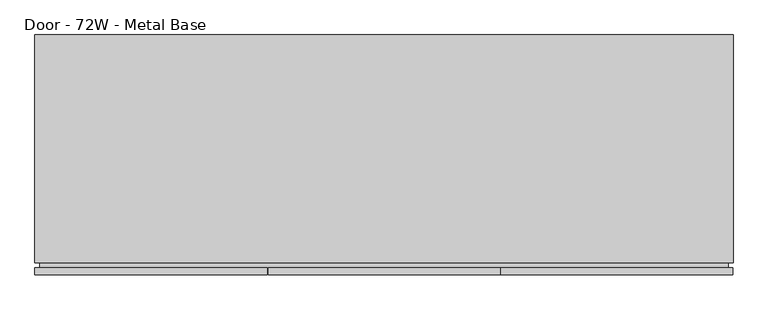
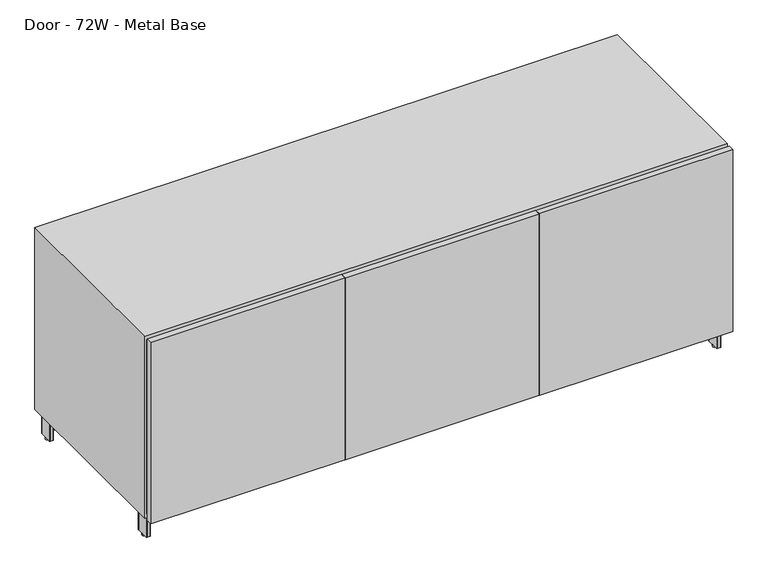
"""IFC4 building model written with IfcOpenShell, lengths in millimetres: furniture geometry, Steelcase Coalesse - Exponents - Storage - Credenza - 27H : Door - 72W - Metal Base."""

from ifc_helpers import new_model, si_unit, point, frame, frame_2d, origin, origin_with_axes, place, context, project, spatial, polyline, circle_curve, trimmed, segment, composite_curve, outline, extrude, faceted_brep, source, transform, mapped, element, save


def door_72w_metal_base_c97f43d6(model_context):
    return source(origin(), model_context, "Body", "SolidModel", [
        faceted_brep([(6.35, 31.75, 673.1), (6.35, 31.75, 95.25), (6.35, 622.3, 95.25), (6.35, 622.3, 673.1), (1822.45, 622.3, 95.25), (1822.45, 622.3, 673.1), (1822.45, 31.75, 95.25), (1822.45, 31.75, 673.1), (0.0, 31.75, 82.55), (1828.8, 31.75, 82.55), (1828.8, 31.75, 685.8), (0.0, 31.75, 685.8), (1828.8, 628.65, 82.55), (1828.8, 628.65, 685.8), (0.0, 628.65, 82.55), (0.0, 628.65, 685.8)], [[[0, 1, 2, 3]], [[3, 2, 4, 5]], [[5, 4, 6, 7]], [[8, 9, 10, 11], [7, 6, 1, 0]], [[10, 9, 12, 13]], [[13, 12, 14, 15]], [[15, 14, 8, 11]], [[7, 0, 3, 5]], [[10, 13, 15, 11]], [[1, 6, 4, 2]], [[12, 9, 8, 14]]]),
        extrude(outline(composite_curve([segment(polyline([(1805.1506426, 615.95), (1814.322, 615.95)]), True, "CONTINUOUS"), segment(trimmed(circle_curve(frame_2d((1814.322, 614.172)), 1.778), [point((1814.322, 615.95))], [point((1816.1, 614.172))], False, "CARTESIAN"), True, "CONTINUOUS"), segment(polyline([(1816.1, 614.172), (1816.1, 572.9986)]), True, "CONTINUOUS"), segment(trimmed(circle_curve(frame_2d((1814.322, 572.9986)), 1.778), [point((1816.1, 572.9986))], [point((1814.322, 571.2206))], False, "CARTESIAN"), True, "CONTINUOUS"), segment(polyline([(1814.322, 571.2206), (1805.1948916, 571.2206)]), True, "CONTINUOUS"), segment(trimmed(circle_curve(frame_2d((1805.1948916, 573.0154916)), 1.7948916), [point((1805.1948916, 571.2206))], [point((1803.4, 573.0154916))], False, "CARTESIAN"), True, "CONTINUOUS"), segment(polyline([(1803.4, 573.0154916), (1803.4, 614.1993574)]), True, "CONTINUOUS"), segment(trimmed(circle_curve(frame_2d((1805.1506426, 614.1993574)), 1.7506426), [point((1803.4, 614.1993574))], [point((1805.1506426, 615.95))], False, "CARTESIAN"), True, "CONTINUOUS")], self_intersect=False)), frame((0.0, 0.0, 6.35), z_axis=(0.0, 0.0, 1.0), x_axis=(1.0, 0.0, 0.0)), (0.0, 0.0, 1.0), 73.4568),
        extrude(outline(composite_curve([segment(polyline([(1805.1506426, 88.9), (1814.322, 88.9)]), True, "CONTINUOUS"), segment(trimmed(circle_curve(frame_2d((1814.322, 87.122)), 1.778), [point((1814.322, 88.9))], [point((1816.1, 87.122))], False, "CARTESIAN"), True, "CONTINUOUS"), segment(polyline([(1816.1, 87.122), (1816.1, 45.9486)]), True, "CONTINUOUS"), segment(trimmed(circle_curve(frame_2d((1814.322, 45.9486)), 1.778), [point((1816.1, 45.9486))], [point((1814.322, 44.1706))], False, "CARTESIAN"), True, "CONTINUOUS"), segment(polyline([(1814.322, 44.1706), (1805.1948916, 44.1706)]), True, "CONTINUOUS"), segment(trimmed(circle_curve(frame_2d((1805.1948916, 45.9654916)), 1.7948916), [point((1805.1948916, 44.1706))], [point((1803.4, 45.9654916))], False, "CARTESIAN"), True, "CONTINUOUS"), segment(polyline([(1803.4, 45.9654916), (1803.4, 87.1493574)]), True, "CONTINUOUS"), segment(trimmed(circle_curve(frame_2d((1805.1506426, 87.1493574)), 1.7506426), [point((1803.4, 87.1493574))], [point((1805.1506426, 88.9))], False, "CARTESIAN"), True, "CONTINUOUS")], self_intersect=False)), frame((0.0, 0.0, 6.35), z_axis=(0.0, 0.0, 1.0), x_axis=(1.0, 0.0, 0.0)), (0.0, 0.0, 1.0), 73.4568),
        extrude(outline(composite_curve([segment(trimmed(circle_curve(frame_2d((1809.75, 593.5667033)), 6.35), [point((1809.75, 599.9167033))], [point((1809.75, 587.2167033))], False, "CARTESIAN"), True, "CONTINUOUS"), segment(trimmed(circle_curve(frame_2d((1809.75, 593.5667033)), 6.35), [point((1809.75, 587.2167033))], [point((1809.75, 599.9167033))], False, "CARTESIAN"), True, "CONTINUOUS")], self_intersect=False)), origin_with_axes(), (0.0, 0.0, 1.0), 6.35),
        extrude(outline(composite_curve([segment(trimmed(circle_curve(frame_2d((1809.75, 66.7867854)), 6.35), [point((1809.75, 73.1367854))], [point((1809.75, 60.4367854))], False, "CARTESIAN"), True, "CONTINUOUS"), segment(trimmed(circle_curve(frame_2d((1809.75, 66.7867854)), 6.35), [point((1809.75, 60.4367854))], [point((1809.75, 73.1367854))], False, "CARTESIAN"), True, "CONTINUOUS")], self_intersect=False)), origin_with_axes(), (0.0, 0.0, 1.0), 6.35),
        extrude(outline(polyline([(1270.0, 379.0696809), (1270.0, 277.4696809), (1168.4, 277.4696809), (1168.4, 379.0696809), (1270.0, 379.0696809)])), frame((0.0, 0.0, 79.8068), z_axis=(0.0, 0.0, 1.0), x_axis=(1.0, 0.0, 0.0)), (0.0, 0.0, 1.0), 2.7432),
        extrude(outline(polyline([(673.1, 1816.1), (673.1, 12.7), (95.25, 12.7), (95.25, 1816.1), (673.1, 1816.1)]), holes=[polyline([(666.75, 1809.75), (101.6, 1809.75), (101.6, 19.05), (666.75, 19.05), (666.75, 1809.75)])]), frame((0.0, 19.05, 0.0), z_axis=(0.0, 1.0, 0.0), x_axis=(0.0, 0.0, 1.0)), (0.0, 0.0, 1.0), 31.75),
        extrude(outline(composite_curve([segment(polyline([(1211.4256426, 349.25), (1226.947, 349.25)]), True, "CONTINUOUS"), segment(trimmed(circle_curve(frame_2d((1226.947, 347.472)), 1.778), [point((1226.947, 349.25))], [point((1228.725, 347.472))], False, "CARTESIAN"), True, "CONTINUOUS"), segment(polyline([(1228.725, 347.472), (1228.725, 312.928)]), True, "CONTINUOUS"), segment(trimmed(circle_curve(frame_2d((1226.947, 312.928)), 1.778), [point((1228.725, 312.928))], [point((1226.947, 311.15))], False, "CARTESIAN"), True, "CONTINUOUS"), segment(polyline([(1226.947, 311.15), (1211.4698916, 311.15)]), True, "CONTINUOUS"), segment(trimmed(circle_curve(frame_2d((1211.4698916, 312.9448916)), 1.7948916), [point((1211.4698916, 311.15))], [point((1209.675, 312.9448916))], False, "CARTESIAN"), True, "CONTINUOUS"), segment(polyline([(1209.675, 312.9448916), (1209.675, 347.4993574)]), True, "CONTINUOUS"), segment(trimmed(circle_curve(frame_2d((1211.4256426, 347.4993574)), 1.7506426), [point((1209.675, 347.4993574))], [point((1211.4256426, 349.25))], False, "CARTESIAN"), True, "CONTINUOUS")], self_intersect=False)), frame((0.0, 0.0, 6.35), z_axis=(0.0, 0.0, 1.0), x_axis=(1.0, 0.0, 0.0)), (0.0, 0.0, 1.0), 73.4568),
        extrude(outline(polyline([(1220.4800308, 345.280854), (1803.4, 598.591626), (1803.4, 577.8206777), (1233.5741031, 330.2), (1803.4, 82.5793223), (1803.4, 61.808374), (1220.777267, 314.9899805), (1227.2101738, 329.7934165), (1220.4800308, 345.280854)])), frame((0.0, 0.0, 34.925), z_axis=(0.0, 0.0, 1.0), x_axis=(1.0, 0.0, 0.0)), (0.0, 0.0, 1.0), 44.8818),
        extrude(outline(polyline([(1822.45, 520.7), (1720.85, 520.7), (1720.85, 622.3), (1822.45, 622.3), (1822.45, 520.7)])), frame((0.0, 0.0, 79.8068), z_axis=(0.0, 0.0, 1.0), x_axis=(1.0, 0.0, 0.0)), (0.0, 0.0, 1.0), 2.7432),
        extrude(outline(polyline([(1822.45, 139.7), (1822.45, 38.1), (1720.85, 38.1), (1720.85, 139.7), (1822.45, 139.7)])), frame((0.0, 0.0, 79.8068), z_axis=(0.0, 0.0, 1.0), x_axis=(1.0, 0.0, 0.0)), (0.0, 0.0, 1.0), 2.7432),
        extrude(outline(composite_curve([segment(trimmed(circle_curve(frame_2d((1219.0250692, 330.5590189)), 6.35), [point((1219.0250692, 336.9090189))], [point((1219.0250692, 324.2090189))], False, "CARTESIAN"), True, "CONTINUOUS"), segment(trimmed(circle_curve(frame_2d((1219.0250692, 330.5590189)), 6.35), [point((1219.0250692, 324.2090189))], [point((1219.0250692, 336.9090189))], False, "CARTESIAN"), True, "CONTINUOUS")], self_intersect=False)), origin_with_axes(), (0.0, 0.0, 1.0), 6.35),
        extrude(outline(polyline([(1827.8348, 19.05), (1827.8348, 0.0), (1220.0128, 0.0), (1220.0128, 19.05), (1827.8348, 19.05)])), frame((0.0, 0.0, 82.55), z_axis=(0.0, 0.0, 1.0), x_axis=(1.0, 0.0, 0.0)), (0.0, 0.0, 1.0), 603.25),
        extrude(outline(composite_curve([segment(trimmed(circle_curve(frame_2d((23.6493574, 614.1993574)), 1.7506426), [point((23.6493574, 615.95))], [point((25.4, 614.1993574))], False, "CARTESIAN"), True, "CONTINUOUS"), segment(polyline([(25.4, 614.1993574), (25.4, 573.0154916)]), True, "CONTINUOUS"), segment(trimmed(circle_curve(frame_2d((23.6051084, 573.0154916)), 1.7948916), [point((25.4, 573.0154916))], [point((23.6051084, 571.2206))], False, "CARTESIAN"), True, "CONTINUOUS"), segment(polyline([(23.6051084, 571.2206), (14.478, 571.2206)]), True, "CONTINUOUS"), segment(trimmed(circle_curve(frame_2d((14.478, 572.9986)), 1.778), [point((14.478, 571.2206))], [point((12.7, 572.9986))], False, "CARTESIAN"), True, "CONTINUOUS"), segment(polyline([(12.7, 572.9986), (12.7, 614.172)]), True, "CONTINUOUS"), segment(trimmed(circle_curve(frame_2d((14.478, 614.172)), 1.778), [point((12.7, 614.172))], [point((14.478, 615.95))], False, "CARTESIAN"), True, "CONTINUOUS"), segment(polyline([(14.478, 615.95), (23.6493574, 615.95)]), True, "CONTINUOUS")], self_intersect=False)), frame((0.0, 0.0, 6.35), z_axis=(0.0, 0.0, 1.0), x_axis=(1.0, 0.0, 0.0)), (0.0, 0.0, 1.0), 73.4568),
        extrude(outline(composite_curve([segment(trimmed(circle_curve(frame_2d((23.6493574, 87.1493574)), 1.7506426), [point((23.6493574, 88.9))], [point((25.4, 87.1493574))], False, "CARTESIAN"), True, "CONTINUOUS"), segment(polyline([(25.4, 87.1493574), (25.4, 45.9654916)]), True, "CONTINUOUS"), segment(trimmed(circle_curve(frame_2d((23.6051084, 45.9654916)), 1.7948916), [point((25.4, 45.9654916))], [point((23.6051084, 44.1706))], False, "CARTESIAN"), True, "CONTINUOUS"), segment(polyline([(23.6051084, 44.1706), (14.478, 44.1706)]), True, "CONTINUOUS"), segment(trimmed(circle_curve(frame_2d((14.478, 45.9486)), 1.778), [point((14.478, 44.1706))], [point((12.7, 45.9486))], False, "CARTESIAN"), True, "CONTINUOUS"), segment(polyline([(12.7, 45.9486), (12.7, 87.122)]), True, "CONTINUOUS"), segment(trimmed(circle_curve(frame_2d((14.478, 87.122)), 1.778), [point((12.7, 87.122))], [point((14.478, 88.9))], False, "CARTESIAN"), True, "CONTINUOUS"), segment(polyline([(14.478, 88.9), (23.6493574, 88.9)]), True, "CONTINUOUS")], self_intersect=False)), frame((0.0, 0.0, 6.35), z_axis=(0.0, 0.0, 1.0), x_axis=(1.0, 0.0, 0.0)), (0.0, 0.0, 1.0), 73.4568),
        extrude(outline(composite_curve([segment(trimmed(circle_curve(frame_2d((617.3743574, 347.4993574)), 1.7506426), [point((617.3743574, 349.25))], [point((619.125, 347.4993574))], False, "CARTESIAN"), True, "CONTINUOUS"), segment(polyline([(619.125, 347.4993574), (619.125, 312.9448916)]), True, "CONTINUOUS"), segment(trimmed(circle_curve(frame_2d((617.3301084, 312.9448916)), 1.7948916), [point((619.125, 312.9448916))], [point((617.3301084, 311.15))], False, "CARTESIAN"), True, "CONTINUOUS"), segment(polyline([(617.3301084, 311.15), (601.853, 311.15)]), True, "CONTINUOUS"), segment(trimmed(circle_curve(frame_2d((601.853, 312.928)), 1.778), [point((601.853, 311.15))], [point((600.075, 312.928))], False, "CARTESIAN"), True, "CONTINUOUS"), segment(polyline([(600.075, 312.928), (600.075, 347.472)]), True, "CONTINUOUS"), segment(trimmed(circle_curve(frame_2d((601.853, 347.472)), 1.778), [point((600.075, 347.472))], [point((601.853, 349.25))], False, "CARTESIAN"), True, "CONTINUOUS"), segment(polyline([(601.853, 349.25), (617.3743574, 349.25)]), True, "CONTINUOUS")], self_intersect=False)), frame((0.0, 0.0, 6.35), z_axis=(0.0, 0.0, 1.0), x_axis=(1.0, 0.0, 0.0)), (0.0, 0.0, 1.0), 73.4568),
        extrude(outline(polyline([(608.3199692, 345.280854), (601.5898262, 329.7934165), (608.022733, 314.9899805), (25.4, 61.808374), (25.4, 82.5793223), (595.2258969, 330.2), (25.4, 577.8206777), (25.4, 598.591626), (608.3199692, 345.280854)])), frame((0.0, 0.0, 34.925), z_axis=(0.0, 0.0, 1.0), x_axis=(1.0, 0.0, 0.0)), (0.0, 0.0, 1.0), 44.8818),
        extrude(outline(polyline([(1218.4126, 19.05), (1218.4126, 0.0), (610.5652, 0.0), (610.5652, 19.05), (1218.4126, 19.05)])), frame((0.0, 0.0, 82.55), z_axis=(0.0, 0.0, 1.0), x_axis=(1.0, 0.0, 0.0)), (0.0, 0.0, 1.0), 603.25),
        extrude(outline(polyline([(6.35, 520.7), (6.35, 622.3), (107.95, 622.3), (107.95, 520.7), (6.35, 520.7)])), frame((0.0, 0.0, 79.8068), z_axis=(0.0, 0.0, 1.0), x_axis=(1.0, 0.0, 0.0)), (0.0, 0.0, 1.0), 2.7432),
        extrude(outline(polyline([(6.35, 139.7), (107.95, 139.7), (107.95, 38.1), (6.35, 38.1), (6.35, 139.7)])), frame((0.0, 0.0, 79.8068), z_axis=(0.0, 0.0, 1.0), x_axis=(1.0, 0.0, 0.0)), (0.0, 0.0, 1.0), 2.7432),
        extrude(outline(polyline([(558.8, 379.0696809), (660.4, 379.0696809), (660.4, 277.4696809), (558.8, 277.4696809), (558.8, 379.0696809)])), frame((0.0, 0.0, 79.8068), z_axis=(0.0, 0.0, 1.0), x_axis=(1.0, 0.0, 0.0)), (0.0, 0.0, 1.0), 2.7432),
        extrude(outline(polyline([(608.965, 19.05), (608.965, 0.0), (0.0, 0.0), (0.0, 19.05), (608.965, 19.05)])), frame((0.0, 0.0, 82.55), z_axis=(0.0, 0.0, 1.0), x_axis=(1.0, 0.0, 0.0)), (0.0, 0.0, 1.0), 603.25),
        extrude(outline(composite_curve([segment(trimmed(circle_curve(frame_2d((19.05, 593.5667033)), 6.35), [point((12.7, 593.5667033))], [point((25.4, 593.5667033))], False, "CARTESIAN"), True, "CONTINUOUS"), segment(trimmed(circle_curve(frame_2d((19.05, 593.5667033)), 6.35), [point((25.4, 593.5667033))], [point((12.7, 593.5667033))], False, "CARTESIAN"), True, "CONTINUOUS")], self_intersect=False)), origin_with_axes(), (0.0, 0.0, 1.0), 6.35),
        extrude(outline(composite_curve([segment(trimmed(circle_curve(frame_2d((19.05, 66.7867854)), 6.35), [point((12.7, 66.7867854))], [point((25.4, 66.7867854))], False, "CARTESIAN"), True, "CONTINUOUS"), segment(trimmed(circle_curve(frame_2d((19.05, 66.7867854)), 6.35), [point((25.4, 66.7867854))], [point((12.7, 66.7867854))], False, "CARTESIAN"), True, "CONTINUOUS")], self_intersect=False)), origin_with_axes(), (0.0, 0.0, 1.0), 6.35),
        extrude(outline(composite_curve([segment(trimmed(circle_curve(frame_2d((609.7749308, 330.5590189)), 6.35), [point((603.4249308, 330.5590189))], [point((616.1249308, 330.5590189))], False, "CARTESIAN"), True, "CONTINUOUS"), segment(trimmed(circle_curve(frame_2d((609.7749308, 330.5590189)), 6.35), [point((616.1249308, 330.5590189))], [point((603.4249308, 330.5590189))], False, "CARTESIAN"), True, "CONTINUOUS")], self_intersect=False)), origin_with_axes(), (0.0, 0.0, 1.0), 6.35),
        extrude(outline(polyline([(0.0, -19.05), (0.0, 0.0), (31.75, 0.0), (31.75, -19.05), (0.0, -19.05)])), frame((1209.675, 19.05, 101.6), z_axis=(3.1477043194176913e-12, 0.0, 1.0), x_axis=(0.0, 1.0, 0.0)), (0.0, 0.0, 1.0), 565.15),
        extrude(outline(polyline([(0.0, -19.05), (0.0, 0.0), (31.75, 0.0), (31.75, -19.05), (0.0, -19.05)])), frame((590.55, 19.05, 101.6), z_axis=(3.3608671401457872e-12, 0.0, 1.0), x_axis=(0.0, 1.0, 0.0)), (0.0, 0.0, 1.0), 565.15),
        extrude(outline(polyline([(1209.675, 609.6), (1228.725, 609.6), (1228.725, 50.8), (1209.675, 50.8), (1209.675, 609.6)])), frame((0.0, 0.0, 95.25), z_axis=(0.0, 0.0, 1.0), x_axis=(1.0, 0.0, 0.0)), (0.0, 0.0, 1.0), 577.85),
        extrude(outline(polyline([(1209.675, 50.8), (609.6, 50.8), (609.6, 609.6), (1209.675, 609.6), (1209.675, 50.8)])), frame((0.0, 0.0, 371.475), z_axis=(0.0, 0.0, 1.0), x_axis=(1.0, 0.0, 0.0)), (0.0, 0.0, 1.0), 19.05),
        extrude(outline(polyline([(590.55, 609.6), (609.6, 609.6), (609.6, 50.8), (590.55, 50.8), (590.55, 609.6)])), frame((0.0, 0.0, 95.25), z_axis=(0.0, 0.0, 1.0), x_axis=(1.0, 0.0, 0.0)), (0.0, 0.0, 1.0), 577.85),
    ])


if __name__ == "__main__":
    model = new_model("IFC4")
    model_context = context("Model", 3, world=origin())
    ifc_project = project(units=[si_unit("LENGTHUNIT", "METRE", prefix="MILLI")], contexts=[model_context])
    site = spatial("IfcSite", under=ifc_project)
    building = spatial("IfcBuilding", under=site)
    placement = place(None, origin())
    door_72w_metal_base_shape = door_72w_metal_base_c97f43d6(model_context)
    element("IfcFurniture", 1, ObjectType="Steelcase Coalesse - Exponents - Storage - Credenza - 27H : Door - 72W - Metal Base", at=placement, inside=building, context=model_context, shape_type="MappedRepresentation", body=[
        mapped(door_72w_metal_base_shape, transform((0.0, 0.0, 0.0), x_axis=(1.0, 0.0, 0.0), y_axis=(0.0, 1.0, 0.0), z_axis=(0.0, 0.0, 1.0))),
    ])
    save(model, "model.ifc")
